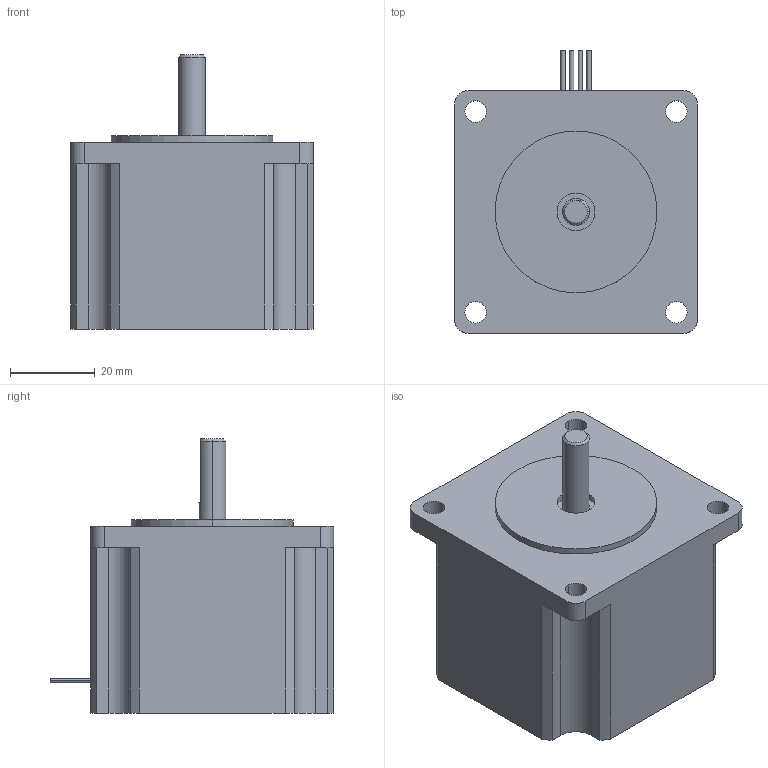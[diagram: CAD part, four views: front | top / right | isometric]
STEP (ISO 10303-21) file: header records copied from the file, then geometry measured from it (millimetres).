
FILE_DESCRIPTION((''),'2;1');
FILE_NAME('C:\Documents and Settings\rbadgerow\Desktop\webmodelmain\web step 3d\5718x\5718x s.stp','2005-05-23T09:16:43',('rbadgerow'),(''),'Autodesk Inventor 9','Autodesk Inventor 9','');
FILE_SCHEMA(('AUTOMOTIVE_DESIGN { 1 0 10303 214 1 1 1 1 }'));
Length unit declared in the file: inch
Products named in the file (1): 5718x s
Bounding box: 57.15 x 66.67 x 64.52 mm (x, y, z)
Volume: 132269.2 mm3; surface area: 16811.2 mm2
Topology: 1 solids, 1 shells, 71 faces, 182 edges, 121 vertices
Faces by surface type: cylinder 40, plane 28, cone 3
Entity records: 2234 total; most frequent: DIRECTION 411, CARTESIAN_POINT 379, ORIENTED_EDGE 364, EDGE_CURVE 182, AXIS2_PLACEMENT_3D 159, VERTEX_POINT 121, VECTOR 93, LINE 93
